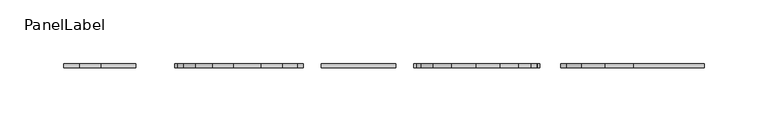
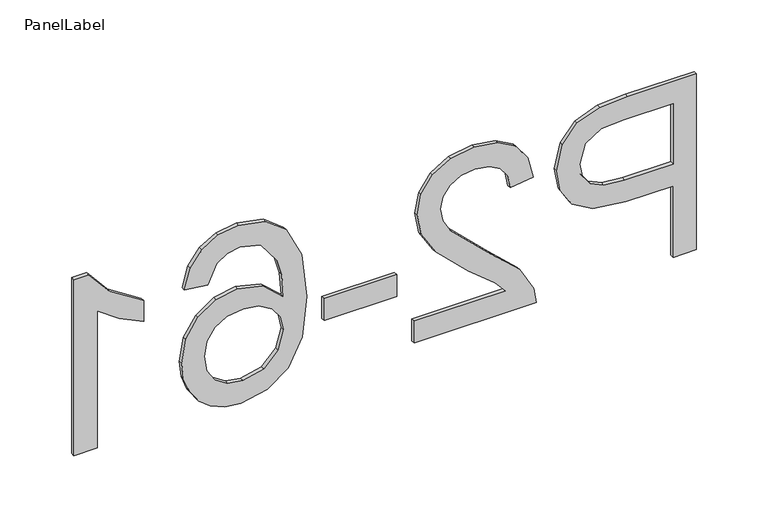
"""IFC4 building model written with IfcOpenShell, lengths in millimetres: fastener geometry, PanelLabel : Miranda."""

import ifcopenshell
import ifcopenshell.guid

model = None  # the IFC model being written
_history = None  # IfcOwnerHistory: only IFC2X3 demands one
_inside = {}  # id of a spatial element -> (the spatial element, [elements in it])
_under = {}  # id of a project, library or spatial element -> (it, [spatial elements below it])
_declared = {}  # id of a project -> (the project, [libraries it declares])
_typed = {}  # id of a type object -> (the type object, [elements of that type])
_made_of = {}  # id of a material, layer set ... -> (it, [elements and type objects made of it])


def new_model(schema):
    """Start an empty IFC model of exactly this schema.

    Asked for "IFC4X3", IfcOpenShell would pick the latest addendum, in which some entities
    have other attributes; the version numbers below select the first issue.
    IFC2X3 requires an IfcOwnerHistory on every rooted entity: one is made here for all.
    """
    global model, _history
    if schema == "IFC4X3":
        model = ifcopenshell.file(schema_version=(4, 3, 0, 0))
    else:
        model = ifcopenshell.file(schema=schema)
    _inside.clear()
    _under.clear()
    _declared.clear()
    _typed.clear()
    _made_of.clear()
    _history = None
    if model.schema == "IFC2X3":
        org = make("IfcOrganization", Name="unknown")
        user = make(
            "IfcPersonAndOrganization",
            ThePerson=make("IfcPerson", FamilyName="unknown"),
            TheOrganization=org,
        )
        app = make(
            "IfcApplication",
            ApplicationDeveloper=org,
            Version="unknown",
            ApplicationFullName="unknown",
            ApplicationIdentifier="unknown",
        )
        _history = make(
            "IfcOwnerHistory",
            OwningUser=user,
            OwningApplication=app,
            ChangeAction="ADDED",
            CreationDate=0,
        )
    return model


def make(cls, **values):
    """One entity of the class cls with the attributes given. An attribute that is None is left unset."""
    return model.create_entity(
        cls, **{name: value for name, value in values.items() if value is not None}
    )


def rooted(cls, **values):
    """An entity with a GlobalId (a new one), such as an element, a storey or a relation."""
    return make(cls, GlobalId=ifcopenshell.guid.new(), OwnerHistory=_history, **values)


def si_unit(unit_type, name, prefix=None):
    """IfcSIUnit, for example si_unit("LENGTHUNIT", "METRE", prefix="MILLI")."""
    return make("IfcSIUnit", UnitType=unit_type, Prefix=prefix, Name=name)


def assignment(units):
    """IfcUnitAssignment: the units of a project."""
    return None if units is None else make("IfcUnitAssignment", Units=units)


def point(xyz):
    """IfcCartesianPoint."""
    return None if xyz is None else make("IfcCartesianPoint", Coordinates=xyz)


def direction(xyz):
    """IfcDirection."""
    return None if xyz is None else make("IfcDirection", DirectionRatios=xyz)


def frame(location, z_axis=None, x_axis=None):
    """IfcAxis2Placement3D, a coordinate frame: its origin and axes. An axis left out is left unset."""
    return make(
        "IfcAxis2Placement3D",
        Location=point(location),
        Axis=direction(z_axis),
        RefDirection=direction(x_axis),
    )


def origin():
    """The frame at (0, 0, 0) with its axes left unset."""
    return frame((0.0, 0.0, 0.0))


def place(relative_to, where):
    """IfcLocalPlacement: puts the frame where relative to a parent placement (None: the world)."""
    return make(
        "IfcLocalPlacement", PlacementRelTo=relative_to, RelativePlacement=where
    )


def context(
    kind, dimensions, precision=None, world=None, true_north=None, identifier=None
):
    """IfcGeometricRepresentationContext, for example the 3D "Model" context."""
    return make(
        "IfcGeometricRepresentationContext",
        ContextIdentifier=identifier,
        ContextType=kind,
        CoordinateSpaceDimension=dimensions,
        Precision=precision,
        WorldCoordinateSystem=world,
        TrueNorth=true_north,
    )


def project(units=None, contexts=None):
    """IfcProject with its units and contexts."""
    return rooted(
        "IfcProject",
        Name="project",
        RepresentationContexts=contexts,
        UnitsInContext=assignment(units),
    )


def spatial(cls, under=None, at=None, **own):
    """A site, building, storey or space (cls), placed at a placement, below another one or the project."""
    s = rooted(cls, ObjectPlacement=at, **own)
    if under is not None:
        _under.setdefault(under.id(), (under, []))[1].append(s)
    return s


def polyline(points):
    """IfcPolyline through the points."""
    return make("IfcPolyline", Points=[point(p) for p in points])


def outline(outer, holes=None, kind="AREA"):
    """IfcArbitraryClosedProfileDef: a profile drawn as a closed curve; with holes, ...WithVoids."""
    if holes is None:
        return make("IfcArbitraryClosedProfileDef", ProfileType=kind, OuterCurve=outer)
    return make(
        "IfcArbitraryProfileDefWithVoids",
        ProfileType=kind,
        OuterCurve=outer,
        InnerCurves=holes,
    )


def extrude(swept, where, along, depth):
    """IfcExtrudedAreaSolid: the profile swept, set in the frame where, extruded along a direction by depth."""
    return make(
        "IfcExtrudedAreaSolid",
        SweptArea=swept,
        Position=where,
        ExtrudedDirection=direction(along),
        Depth=depth,
    )


def shape(context_of_items, identifier, shape_type, items):
    """IfcShapeRepresentation: the items that make up one representation, for example the "Body"."""
    return make(
        "IfcShapeRepresentation",
        ContextOfItems=context_of_items,
        RepresentationIdentifier=identifier,
        RepresentationType=shape_type,
        Items=items,
    )


def source(mapping_origin, context_of_items, identifier, shape_type, items):
    """IfcRepresentationMap: a shape defined once, which mapped items show again and again."""
    return make(
        "IfcRepresentationMap",
        MappingOrigin=mapping_origin,
        MappedRepresentation=shape(context_of_items, identifier, shape_type, items),
    )


def transform(
    local_origin,
    x_axis=None,
    y_axis=None,
    z_axis=None,
    scale=None,
    scale2=None,
    scale3=None,
    uniform=True,
):
    """IfcCartesianTransformationOperator3D, or its non-uniform kind. x_axis, y_axis, z_axis: its Axis1, 2, 3."""
    if uniform:
        return make(
            "IfcCartesianTransformationOperator3D",
            Axis1=direction(x_axis),
            Axis2=direction(y_axis),
            LocalOrigin=point(local_origin),
            Scale=scale,
            Axis3=direction(z_axis),
        )
    return make(
        "IfcCartesianTransformationOperator3DnonUniform",
        Axis1=direction(x_axis),
        Axis2=direction(y_axis),
        LocalOrigin=point(local_origin),
        Scale=scale,
        Axis3=direction(z_axis),
        Scale2=scale2,
        Scale3=scale3,
    )


def mapped(mapping_source, mapping_target):
    """IfcMappedItem: shows the shape of a source again, moved by a transform."""
    return make(
        "IfcMappedItem", MappingSource=mapping_source, MappingTarget=mapping_target
    )


def made_of(thing, what):
    """Note that an element or type object is made of a material, layer set ...; save() writes the relation."""
    if what is not None:
        _made_of.setdefault(what.id(), (what, []))[1].append(thing)
    return thing


def element(
    cls,
    number,
    at=None,
    inside=None,
    cuts=None,
    type_object=None,
    material=None,
    context=None,
    identifier="Body",
    shape_type=None,
    held_by="IfcProductDefinitionShape",
    body=None,
    shapes=None,
    **own,
):
    """One element of the class cls, such as IfcWall. Its Tag is "e" and its number.

    at: its placement. inside: the storey or other place that contains it. cuts: it is an
    opening in that element (IfcRelVoidsElement). A single representation is given by context,
    identifier, shape_type and body (its items); several are given by shapes. held_by: the class
    of the entity that holds the representations. save() writes the other relations.
    """
    e = rooted(cls, Tag="e%d" % number, ObjectPlacement=at, **own)
    if body is not None:
        shapes = [shape(context, identifier, shape_type, body)]
    if shapes is not None:
        e.Representation = make(held_by, Representations=shapes)
    if inside is not None:
        _inside.setdefault(inside.id(), (inside, []))[1].append(e)
    if cuts is not None:
        rooted(
            "IfcRelVoidsElement", RelatingBuildingElement=cuts, RelatedOpeningElement=e
        )
    if type_object is not None:
        _typed.setdefault(type_object.id(), (type_object, []))[1].append(e)
    return made_of(e, material)


def aggregate(whole, parts):
    """IfcRelAggregates: a whole, such as a stair, and the parts it consists of."""
    return rooted("IfcRelAggregates", RelatingObject=whole, RelatedObjects=parts)


def save(model, path):
    """Write the relations noted so far, then the file.

    IfcRelAggregates (storeys below a building ...), IfcRelContainedInSpatialStructure (elements
    in a storey), IfcRelDefinesByType, IfcRelAssociatesMaterial and IfcRelDeclares: one each for
    every whole, place, type object, material and project.
    """
    for whole, parts in _under.values():
        aggregate(whole, parts)
    for where, things in _inside.values():
        rooted(
            "IfcRelContainedInSpatialStructure",
            RelatedElements=things,
            RelatingStructure=where,
        )
    for kind, things in _typed.values():
        rooted("IfcRelDefinesByType", RelatedObjects=things, RelatingType=kind)
    for what, things in _made_of.values():
        rooted("IfcRelAssociatesMaterial", RelatedObjects=things, RelatingMaterial=what)
    for by, libraries in _declared.values():
        rooted("IfcRelDeclares", RelatingContext=by, RelatedDefinitions=libraries)
    model.write(path)


def panellabel_6a70a0fa(model_context):
    return source(origin(), model_context, "Body", "SweptSolid", [
        extrude(outline(polyline([(1310.9113766, 260.2523077), (1460.9667612, 260.2523077), (1460.9667612, 204.6409615), (1459.5380112, 182.2205769), (1452.5224823, 163.9948558), (1438.0151747, 152.1801923), (1417.554742, 147.7107692), (1399.8693814, 150.7285457), (1385.1331073, 159.781875), (1375.1868093, 176.7116466), (1371.8713766, 203.35875), (1371.8713766, 241.4953846), (1310.9113766, 241.4953846), (1310.9113766, 260.2523077)]), holes=[polyline([(1390.6282997, 241.4953846), (1390.6282997, 202.2597115), (1392.3501266, 185.6275962), (1397.5156073, 174.6372115), (1405.8041891, 168.5100721), (1416.8953189, 166.4676923), (1432.4283958, 171.2851442), (1440.9276266, 183.9424038), (1442.2098381, 202.6993269), (1442.2098381, 241.4953846), (1390.6282997, 241.4953846)])]), frame((0.0, 60.325, 0.0), z_axis=(0.0, 1.0, 0.0), x_axis=(0.0, 0.0, 1.0)), (0.0, 0.0, 1.0), 3.175),
        extrude(outline(polyline([(1329.6682997, 32.8246154), (1310.9113766, 32.8246154), (1310.9113766, 131.2984615), (1323.8433958, 129.2835577), (1343.7543093, 117.8901923), (1365.4969535, 94.4074038), (1396.7462804, 62.0224038), (1407.5168573, 55.9502163), (1417.9943573, 53.9261538), (1427.3865569, 55.8357332), (1435.1943093, 61.5644712), (1440.4559559, 70.3705168), (1442.2098381, 81.5120192), (1440.4971698, 93.2121995), (1435.359165, 102.3021635), (1427.1988045, 108.1682813), (1416.4190689, 110.1969231), (1418.7636843, 128.9538462), (1436.9069775, 124.4065745), (1450.1595497, 114.5747596), (1458.2649583, 99.9712861), (1460.9667612, 81.1090385), (1457.9627227, 62.1094111), (1448.9506073, 47.5334135), (1435.4873862, 38.2602764), (1419.1300304, 35.1692308), (1401.3439247, 38.5029808), (1382.9533477, 49.5849519), (1357.254165, 76.4564423), (1339.211617, 98.0342308), (1329.6682997, 106.4968269), (1329.6682997, 32.8246154)])), frame((0.0, 60.325, 0.0), z_axis=(0.0, 1.0, 0.0), x_axis=(0.0, 0.0, 1.0)), (0.0, 0.0, 1.0), 3.175),
        extrude(outline(polyline([(-39.8584615, 63.5), (18.7569231, 63.5), (18.7569231, 60.325), (-39.8584615, 60.325), (-39.8584615, 63.5)])), frame((0.0, 0.0, 1355.4590689), z_axis=(0.0, 0.0, 1.0), x_axis=(1.0, 0.0, 0.0)), (0.0, 0.0, 1.0), 18.7569231),
        extrude(outline(polyline([(1421.1082997, -152.4), (1418.7636843, -133.6430769), (1434.406665, -126.5359615), (1440.2590448, -118.0275721), (1442.2098381, -107.7424038), (1437.6671458, -90.8172115), (1420.6137323, -78.0134135), (1406.6422059, -74.1255649), (1387.1846458, -72.6830769), (1402.1498862, -89.2236058), (1407.0406073, -109.7206731), (1403.6976987, -127.0488462), (1393.6689727, -141.5927885), (1378.3465448, -151.4566587), (1359.1225304, -154.7446154), (1345.6913646, -153.1968029), (1333.2401747, -148.5533654), (1322.6802468, -141.1989663), (1314.922867, -131.5182692), (1310.1557876, -119.9508894), (1308.5667612, -106.9364423), (1312.779742, -85.6563101), (1325.4186843, -68.7082212), (1347.729165, -57.6216707), (1380.9567612, -53.9261538), (1418.3149102, -58.0292308), (1443.8583958, -70.3384615), (1456.6896698, -87.1445913), (1460.9667612, -108.9147115), (1458.3199102, -125.3728125), (1450.3793573, -138.5521154), (1437.767891, -147.7840385), (1421.1082997, -152.4)]), holes=[polyline([(1359.4156073, -72.6830769), (1343.1681554, -77.0242788), (1331.3718093, -88.5641827), (1327.3236843, -105.4710577), (1329.421016, -117.8489784), (1335.7130112, -127.5800481), (1345.6043573, -133.8857812), (1358.499742, -135.9876923), (1370.8776626, -133.9132572), (1380.3156554, -127.6899519), (1386.2916771, -117.7940264), (1388.2836843, -104.7017308), (1386.2916771, -92.3421274), (1380.3156554, -82.0065865), (1371.106629, -75.0139543), (1359.4156073, -72.6830769)])]), frame((0.0, 60.325, 0.0), z_axis=(0.0, 1.0, 0.0), x_axis=(0.0, 0.0, 1.0)), (0.0, 0.0, 1.0), 3.175),
        extrude(outline(polyline([(1310.9113766, -241.4953846), (1310.9113766, -222.7384615), (1427.8490689, -222.7384615), (1415.1918093, -204.9706731), (1405.7217612, -185.2246154), (1423.452915, -185.2246154), (1441.0008958, -212.7188942), (1460.9667612, -229.4059615), (1460.9667612, -241.4953846), (1310.9113766, -241.4953846)])), frame((0.0, 60.325, 0.0), z_axis=(0.0, 1.0, 0.0), x_axis=(0.0, 0.0, 1.0)), (0.0, 0.0, 1.0), 3.175),
    ])


if __name__ == "__main__":
    model = new_model("IFC4")
    model_context = context("Model", 3, world=origin())
    ifc_project = project(units=[si_unit("LENGTHUNIT", "METRE", prefix="MILLI")], contexts=[model_context])
    site = spatial("IfcSite", under=ifc_project)
    building = spatial("IfcBuilding", under=site)
    placement = place(None, origin())
    panellabel_shape = panellabel_6a70a0fa(model_context)
    element("IfcFastener", 1, ObjectType="PanelLabel : Miranda", at=placement, inside=building, context=model_context, shape_type="MappedRepresentation", body=[
        mapped(panellabel_shape, transform((0.0, 0.0, 0.0), x_axis=(1.0, 0.0, 0.0), y_axis=(0.0, 1.0, 0.0), z_axis=(0.0, 0.0, 1.0))),
    ])
    save(model, "model.ifc")
